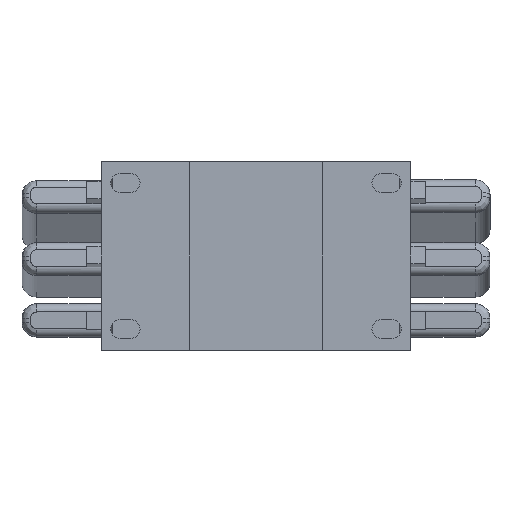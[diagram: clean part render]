
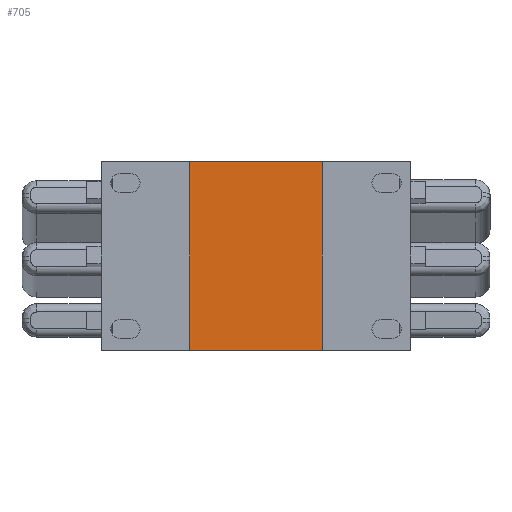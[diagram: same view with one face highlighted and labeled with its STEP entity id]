
A CAD part, front view. The second image highlights one B-rep face of the part: STEP entity #705.
In plain terms, the highlighted planar face has unit normal (0, -1, 0).
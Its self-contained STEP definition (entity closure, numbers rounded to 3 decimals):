
#418 = VERTEX_POINT ( 'NONE', #4123 ) ;
#539 = EDGE_LOOP ( 'NONE', ( #4709, #3225, #2250, #7621 ) ) ;
#705 = ADVANCED_FACE ( 'NONE', ( #7159 ), #3129, .T. ) ;
#1143 = VECTOR ( 'NONE', #3973, 1000. ) ;
#1241 = CARTESIAN_POINT ( 'NONE',  ( 19.7, 4., 45. ) ) ;
#1647 = VERTEX_POINT ( 'NONE', #7759 ) ;
#1829 = AXIS2_PLACEMENT_3D ( 'NONE', #6182, #4061, #8750 ) ;
#1895 = CARTESIAN_POINT ( 'NONE',  ( 37., 4., 0. ) ) ;
#2250 = ORIENTED_EDGE ( 'NONE', *, *, #5323, .T. ) ;
#2999 = DIRECTION ( 'NONE',  ( 0., 0., 1. ) ) ;
#3129 = PLANE ( 'NONE',  #1829 ) ;
#3225 = ORIENTED_EDGE ( 'NONE', *, *, #6379, .T. ) ;
#3281 = CARTESIAN_POINT ( 'NONE',  ( 54.3, 4., 45. ) ) ;
#3284 = VERTEX_POINT ( 'NONE', #6158 ) ;
#3350 = EDGE_CURVE ( 'NONE', #1647, #4577, #5421, .T. ) ;
#3547 = LINE ( 'NONE', #1895, #8921 ) ;
#3973 = DIRECTION ( 'NONE',  ( 0., 0., -1. ) ) ;
#4061 = DIRECTION ( 'NONE',  ( 0., -1., 0. ) ) ;
#4123 = CARTESIAN_POINT ( 'NONE',  ( 19.7, 4., 0. ) ) ;
#4127 = EDGE_CURVE ( 'NONE', #3284, #1647, #4426, .T. ) ;
#4426 = LINE ( 'NONE', #3281, #7914 ) ;
#4577 = VERTEX_POINT ( 'NONE', #1241 ) ;
#4617 = DIRECTION ( 'NONE',  ( 1., 0., 0. ) ) ;
#4662 = CARTESIAN_POINT ( 'NONE',  ( 19.7, 4., 45. ) ) ;
#4709 = ORIENTED_EDGE ( 'NONE', *, *, #3350, .T. ) ;
#5323 = EDGE_CURVE ( 'NONE', #418, #3284, #3547, .T. ) ;
#5421 = LINE ( 'NONE', #5916, #8926 ) ;
#5913 = DIRECTION ( 'NONE',  ( -1., 0., 0. ) ) ;
#5916 = CARTESIAN_POINT ( 'NONE',  ( 19.7, 4., 45. ) ) ;
#6158 = CARTESIAN_POINT ( 'NONE',  ( 54.3, 4., 0. ) ) ;
#6182 = CARTESIAN_POINT ( 'NONE',  ( 19.7, 4., 45. ) ) ;
#6379 = EDGE_CURVE ( 'NONE', #4577, #418, #6718, .T. ) ;
#6718 = LINE ( 'NONE', #4662, #1143 ) ;
#7159 = FACE_OUTER_BOUND ( 'NONE', #539, .T. ) ;
#7621 = ORIENTED_EDGE ( 'NONE', *, *, #4127, .T. ) ;
#7759 = CARTESIAN_POINT ( 'NONE',  ( 54.3, 4., 45. ) ) ;
#7914 = VECTOR ( 'NONE', #2999, 1000. ) ;
#8750 = DIRECTION ( 'NONE',  ( 0., 0., -1. ) ) ;
#8921 = VECTOR ( 'NONE', #4617, 1000. ) ;
#8926 = VECTOR ( 'NONE', #5913, 1000. ) ;
